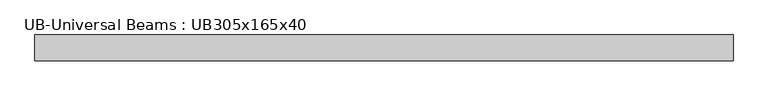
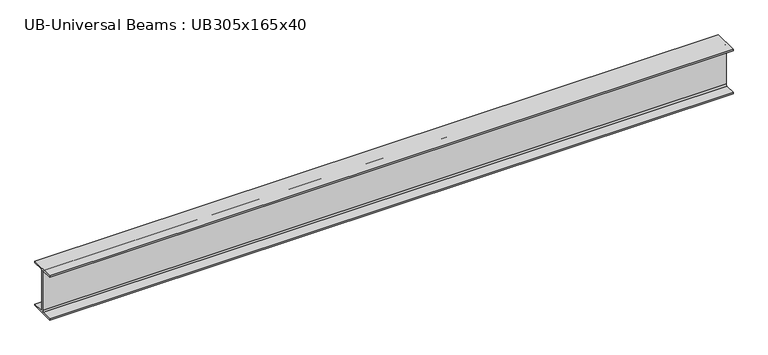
"""IFC4 building model written with IfcOpenShell, lengths in millimetres: beam geometry, UB-Universal Beams : UB305x165x40."""

from ifc_helpers import new_model, si_unit, point, frame, frame_2d, origin, place, context, project, spatial, polyline, circle_curve, trimmed, segment, composite_curve, outline, extrude, source, transform, mapped, element, save


def ub_universal_beams_ub305x165x40_8de8485a(model_context):
    return source(origin(), model_context, "Body", "SweptSolid", [
        extrude(outline(composite_curve([segment(polyline([(82.5, -141.5), (82.5, -151.7), (-82.5, -151.7), (-82.5, -141.5), (-11.9, -141.5)]), True, "CONTINUOUS"), segment(trimmed(circle_curve(frame_2d((-11.9, -132.6)), 8.9), [point((-11.9, -141.5))], [point((-3.0, -132.6))], True, "CARTESIAN"), True, "CONTINUOUS"), segment(polyline([(-3.0, -132.6), (-3.0, 132.6)]), True, "CONTINUOUS"), segment(trimmed(circle_curve(frame_2d((-11.9, 132.6)), 8.9), [point((-3.0, 132.6))], [point((-11.9, 141.5))], True, "CARTESIAN"), True, "CONTINUOUS"), segment(polyline([(-11.9, 141.5), (-82.5, 141.5), (-82.5, 151.7), (82.5, 151.7), (82.5, 141.5), (11.9, 141.5)]), True, "CONTINUOUS"), segment(trimmed(circle_curve(frame_2d((11.9, 132.6)), 8.9), [point((11.9, 141.5))], [point((3.0, 132.6))], True, "CARTESIAN"), True, "CONTINUOUS"), segment(polyline([(3.0, 132.6), (3.0, -132.6)]), True, "CONTINUOUS"), segment(trimmed(circle_curve(frame_2d((11.9, -132.6)), 8.9), [point((3.0, -132.6))], [point((11.9, -141.5))], True, "CARTESIAN"), True, "CONTINUOUS"), segment(polyline([(11.9, -141.5), (82.5, -141.5)]), True, "CONTINUOUS")], self_intersect=False)), frame((-2217.1, 0.0, 0.0), z_axis=(1.0, 0.0, 0.0), x_axis=(0.0, 1.0, 0.0)), (0.0, 0.0, 1.0), 4434.2),
    ])


if __name__ == "__main__":
    model = new_model("IFC4")
    model_context = context("Model", 3, world=origin())
    ifc_project = project(units=[si_unit("LENGTHUNIT", "METRE", prefix="MILLI")], contexts=[model_context])
    site = spatial("IfcSite", under=ifc_project)
    building = spatial("IfcBuilding", under=site)
    placement = place(None, origin())
    ub_universal_beams_ub305x165x40_shape = ub_universal_beams_ub305x165x40_8de8485a(model_context)
    element("IfcBeam", 1, ObjectType="UB-Universal Beams : UB305x165x40", at=placement, inside=building, context=model_context, shape_type="MappedRepresentation", body=[
        mapped(ub_universal_beams_ub305x165x40_shape, transform((0.0, 0.0, 0.0), x_axis=(1.0, 0.0, 0.0), y_axis=(0.0, 1.0, 0.0), z_axis=(0.0, 0.0, 1.0))),
    ])
    save(model, "model.ifc")
